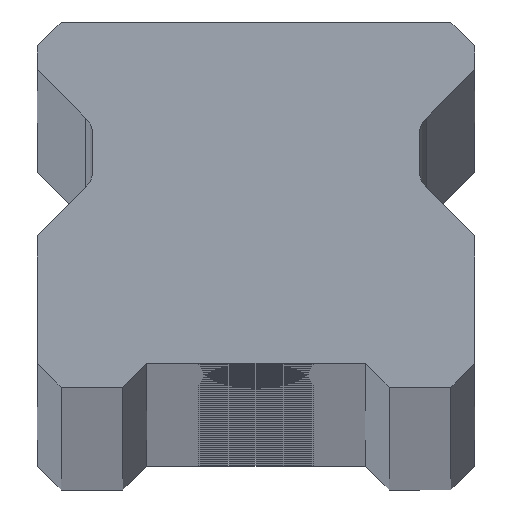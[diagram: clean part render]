
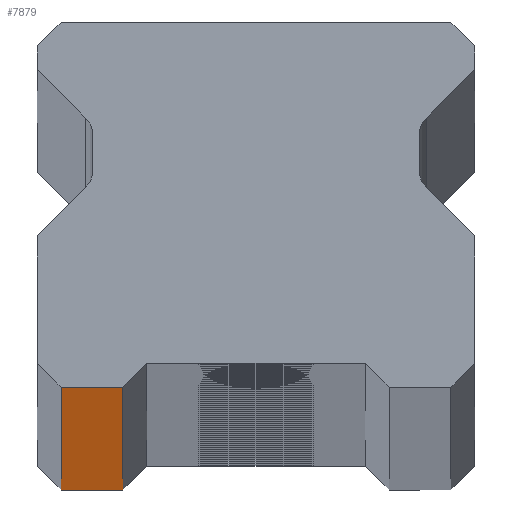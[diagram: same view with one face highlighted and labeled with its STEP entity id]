
A CAD part, top view. The second image highlights one B-rep face of the part: STEP entity #7879.
In plain terms, the highlighted planar face has unit normal (0, -1, 0).
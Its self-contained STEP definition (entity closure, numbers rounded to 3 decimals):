
#82 = CARTESIAN_POINT ( 'NONE',  ( -10.25, 0., -1550. ) ) ;
#195 = CARTESIAN_POINT ( 'NONE',  ( 11.5, 0., -1550. ) ) ;
#388 = ORIENTED_EDGE ( 'NONE', *, *, #1057, .F. ) ;
#821 = VECTOR ( 'NONE', #9650, 1000. ) ;
#830 = VERTEX_POINT ( 'NONE', #9976 ) ;
#974 = CARTESIAN_POINT ( 'NONE',  ( -10.25, 0., 1550. ) ) ;
#1057 = EDGE_CURVE ( 'NONE', #6947, #6759, #2395, .T. ) ;
#1439 = PLANE ( 'NONE',  #6876 ) ;
#1514 = CARTESIAN_POINT ( 'NONE',  ( -7., 0., -1550. ) ) ;
#1554 = VERTEX_POINT ( 'NONE', #82 ) ;
#1632 = DIRECTION ( 'NONE',  ( 1., 0., 0. ) ) ;
#2007 = ORIENTED_EDGE ( 'NONE', *, *, #8672, .T. ) ;
#2231 = LINE ( 'NONE', #195, #8783 ) ;
#2395 = LINE ( 'NONE', #5548, #5037 ) ;
#3081 = DIRECTION ( 'NONE',  ( -1., 0., 0. ) ) ;
#4115 = LINE ( 'NONE', #1514, #821 ) ;
#5020 = DIRECTION ( 'NONE',  ( 1., 0., 0. ) ) ;
#5037 = VECTOR ( 'NONE', #1632, 1000. ) ;
#5385 = EDGE_CURVE ( 'NONE', #6947, #1554, #6811, .T. ) ;
#5548 = CARTESIAN_POINT ( 'NONE',  ( 11.5, 0., 1550. ) ) ;
#5895 = ORIENTED_EDGE ( 'NONE', *, *, #5385, .T. ) ;
#6140 = FACE_OUTER_BOUND ( 'NONE', #8317, .T. ) ;
#6173 = CARTESIAN_POINT ( 'NONE',  ( -10.25, 0., 1550. ) ) ;
#6759 = VERTEX_POINT ( 'NONE', #8876 ) ;
#6811 = LINE ( 'NONE', #6173, #9364 ) ;
#6876 = AXIS2_PLACEMENT_3D ( 'NONE', #7070, #7907, #3081 ) ;
#6899 = DIRECTION ( 'NONE',  ( 0., 0., -1. ) ) ;
#6947 = VERTEX_POINT ( 'NONE', #974 ) ;
#7070 = CARTESIAN_POINT ( 'NONE',  ( 11.5, 0., 1550. ) ) ;
#7879 = ADVANCED_FACE ( 'NONE', ( #6140 ), #1439, .F. ) ;
#7907 = DIRECTION ( 'NONE',  ( 0., 1., 0. ) ) ;
#8317 = EDGE_LOOP ( 'NONE', ( #2007, #9648, #388, #5895 ) ) ;
#8672 = EDGE_CURVE ( 'NONE', #1554, #830, #2231, .T. ) ;
#8783 = VECTOR ( 'NONE', #5020, 1000. ) ;
#8876 = CARTESIAN_POINT ( 'NONE',  ( -7., 0., 1550. ) ) ;
#8913 = EDGE_CURVE ( 'NONE', #830, #6759, #4115, .T. ) ;
#9364 = VECTOR ( 'NONE', #6899, 1000. ) ;
#9648 = ORIENTED_EDGE ( 'NONE', *, *, #8913, .T. ) ;
#9650 = DIRECTION ( 'NONE',  ( 0., 0., 1. ) ) ;
#9976 = CARTESIAN_POINT ( 'NONE',  ( -7., 0., -1550. ) ) ;
